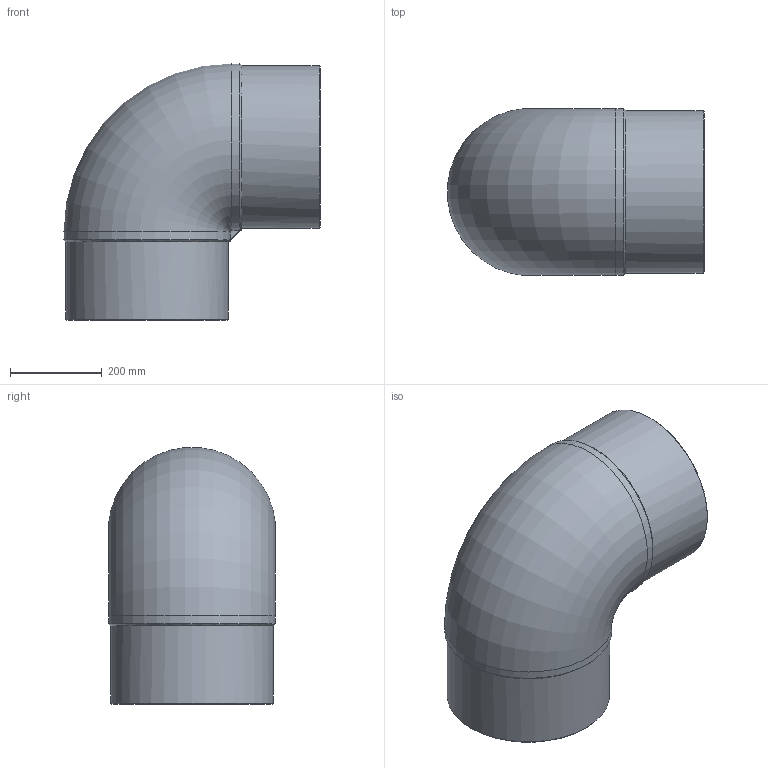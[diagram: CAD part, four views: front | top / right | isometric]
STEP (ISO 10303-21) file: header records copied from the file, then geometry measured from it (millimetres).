
FILE_DESCRIPTION(/* description */ ('Unknown'),/* implementation_level */ '2;1');
FILE_NAME(/* name */ 'G9P355H',/* time_stamp */ '2021-11-29T10:05:53+01:00',/* author */ ('Unknown'),/* organization */ ('Unknown'),/* preprocessor_version */ 'ST-DEVELOPER v16.7',/* originating_system */ 'Solid Edge',/* authorisation */ 'Unknown');
FILE_SCHEMA (('AUTOMOTIVE_DESIGN {1 0 10303 214 3 1 1}'));
Length unit declared in the file: millimetre
Products named in the file (1): G9P355H
Bounding box: 559.8 x 363.69 x 559.8 mm (x, y, z)
Volume: 33883623 mm3; surface area: 1410793.1 mm2
Topology: 1 solids, 1 shells, 25 faces, 65 edges, 42 vertices
Faces by surface type: cylinder 8, bspline 6, plane 5, cone 4, torus 2
Full cylindrical faces by diameter (mm): 258 x2, 355 x2
Entity records: 836 total; most frequent: CARTESIAN_POINT 299, ORIENTED_EDGE 106, DIRECTION 90, EDGE_CURVE 53, AXIS2_PLACEMENT_3D 41, VERTEX_POINT 38, EDGE_LOOP 35, FACE_BOUND 35
